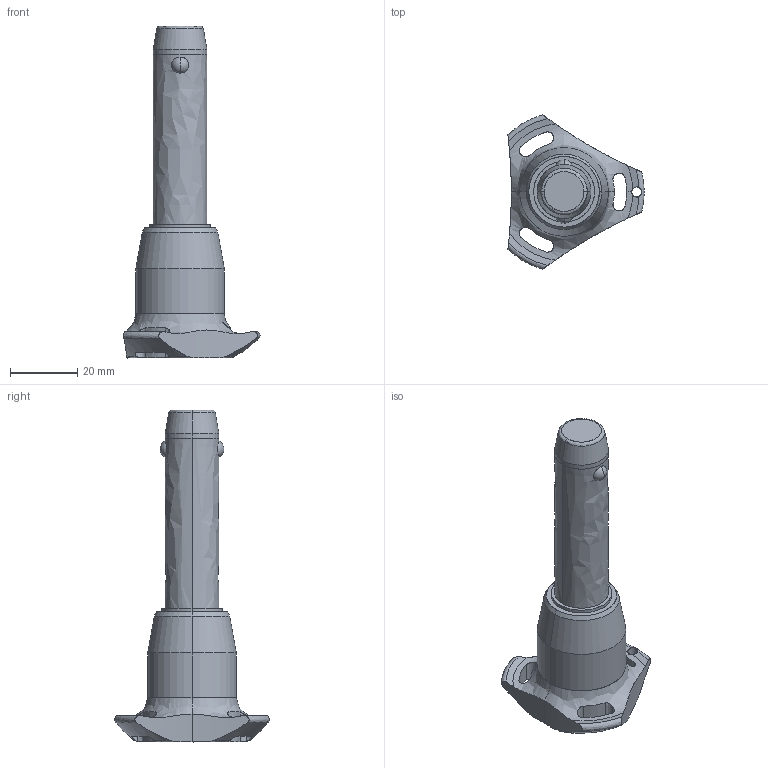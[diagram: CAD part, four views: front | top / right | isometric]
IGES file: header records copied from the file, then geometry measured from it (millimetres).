
Start section: SolidWorks IGES file using analytic representation for surfaces
Global section: file name: C:\Users\ianosborn\Desktop\QR1726_v2\QR1726_v2_20251115_IGES\QR1726.M16-045-T.igs; native system: SolidWorks 2019; preprocessor: SolidWorks 2019; author: IanOsborn; date: 251113.111918; units: millimetre
Bounding box: 40.5 x 45.88 x 98.7 mm (x, y, z)
Surface area: 8920.8 mm2 (no closed solid volume)
Topology: 0 solids, 0 shells, 68 faces, 1451 edges, 1447 vertices
Faces by surface type: revolution 52, bspline 16
